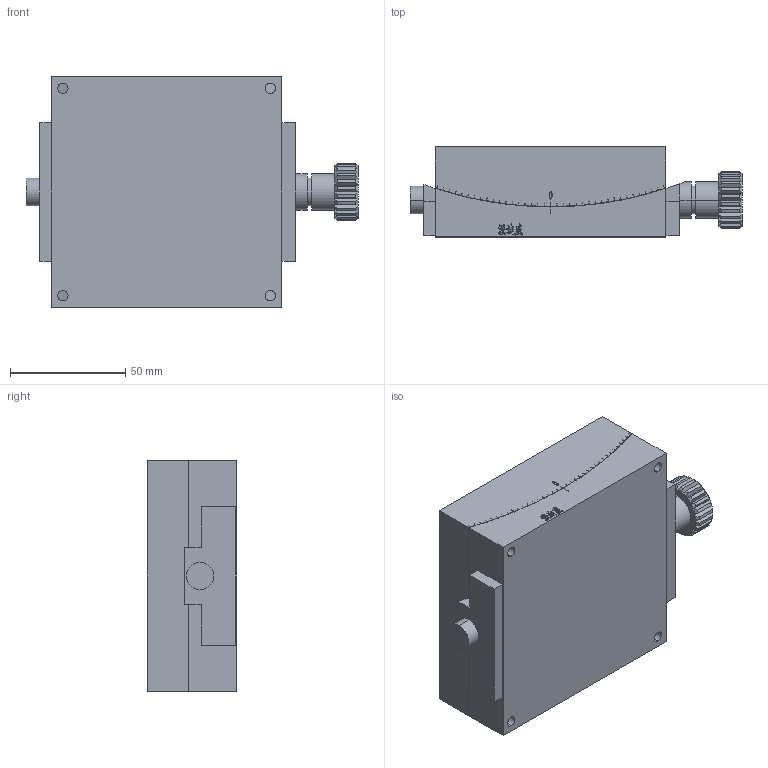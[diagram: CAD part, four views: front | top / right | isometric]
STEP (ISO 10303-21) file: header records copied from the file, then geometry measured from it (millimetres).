
FILE_DESCRIPTION (( 'STEP AP214' ), '1' );
FILE_NAME ('PT-SD3134.STEP', '2022-11-06T08:20:26', ( '' ), ( '' ), 'SwSTEP 2.0', 'SolidWorks 2017', '' );
FILE_SCHEMA (( 'AUTOMOTIVE_DESIGN' ));
Length unit declared in the file: millimetre
Products named in the file (3): PT-SD350-4; PT-SD3134; PT-SD350-3
Assembly tree (2 placements, depth 2):
  PT-SD3134
    PT-SD350-3
    PT-SD350-4
Bounding box: 144 x 39 x 100 mm (x, y, z)
Volume: 404152.1 mm3; surface area: 65601 mm2
Topology: 2 solids, 2 shells, 752 faces, 2124 edges, 1376 vertices
Faces by surface type: plane 466, cylinder 98, cone 96, bspline 92
Entity records: 28916 total; most frequent: CARTESIAN_POINT 9600, ORIENTED_EDGE 4152, DIRECTION 3434, EDGE_CURVE 2076, VECTOR 1470, LINE 1470, VERTEX_POINT 1376, AXIS2_PLACEMENT_3D 982
